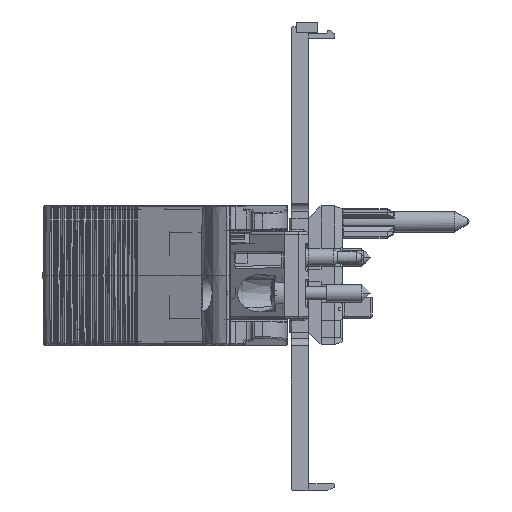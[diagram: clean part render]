
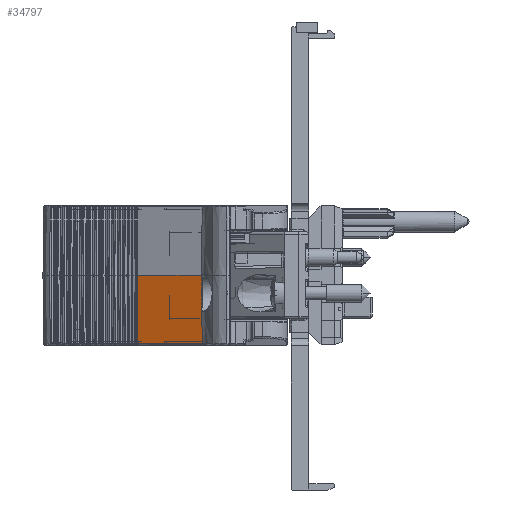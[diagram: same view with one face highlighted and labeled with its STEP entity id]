
A CAD part, front view. The second image highlights one B-rep face of the part: STEP entity #34797.
In plain terms, the highlighted planar face has unit normal (-0.391, -0.92, -0.009) as drawn and (0.391, -0.92, 0.009) by its records, which use the part's own axes.
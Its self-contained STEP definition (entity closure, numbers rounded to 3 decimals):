
#19354=PLANE('',#94073);
#24374=LINE('',#130805,#29604);
#24376=LINE('',#130809,#29606);
#24441=LINE('',#134069,#29671);
#29604=VECTOR('',#103771,1.);
#29606=VECTOR('',#103775,1.);
#29671=VECTOR('',#104480,1.);
#34797=ADVANCED_FACE('',(#39443),#19354,.F.);
#39443=FACE_OUTER_BOUND('',#43749,.T.);
#43749=EDGE_LOOP('',(#55986,#55987,#55988,#55989));
#55986=ORIENTED_EDGE('',*,*,#81768,.F.);
#55987=ORIENTED_EDGE('',*,*,#82191,.F.);
#55988=ORIENTED_EDGE('',*,*,#80669,.F.);
#55989=ORIENTED_EDGE('',*,*,#81770,.F.);
#73106=VERTEX_POINT('',#126461);
#73107=VERTEX_POINT('',#126466);
#73733=VERTEX_POINT('',#129782);
#73826=VERTEX_POINT('',#130804);
#80669=EDGE_CURVE('',#73106,#73107,#90261,.T.);
#81768=EDGE_CURVE('',#73826,#73733,#24374,.T.);
#81770=EDGE_CURVE('',#73733,#73106,#24376,.T.);
#82191=EDGE_CURVE('',#73107,#73826,#24441,.T.);
#90261=B_SPLINE_CURVE_WITH_KNOTS('',3,(#126462,#126463,#126464,#126465),
 .UNSPECIFIED.,.F.,.F.,(4,4),(0.,1.),.UNSPECIFIED.);
#94073=AXIS2_PLACEMENT_3D('',#134070,#104481,#104482);
#103771=DIRECTION('',(-0.005,-0.011,-1.));
#103775=DIRECTION('',(-0.921,-0.391,0.));
#104480=DIRECTION('',(0.921,0.391,0.));
#104481=DIRECTION('',(-0.391,0.92,-0.009));
#104482=DIRECTION('',(0.022,0.,-1.));
#126461=CARTESIAN_POINT('',(-38.519,-47.517,9.85));
#126462=CARTESIAN_POINT('',(-38.519,-47.517,9.85));
#126463=CARTESIAN_POINT('',(-38.551,-47.5,13.084));
#126464=CARTESIAN_POINT('',(-38.583,-47.483,16.318));
#126465=CARTESIAN_POINT('',(-38.614,-47.466,19.552));
#126466=CARTESIAN_POINT('',(-38.614,-47.465,19.552));
#129782=CARTESIAN_POINT('',(-29.317,-43.611,9.85));
#130804=CARTESIAN_POINT('',(-29.272,-43.5,19.552));
#130805=CARTESIAN_POINT('',(-29.272,-43.5,19.552));
#130809=CARTESIAN_POINT('',(-28.857,-43.416,9.85));
#134069=CARTESIAN_POINT('',(-29.088,-43.422,19.552));
#134070=CARTESIAN_POINT('',(-28.857,-43.416,9.82));
